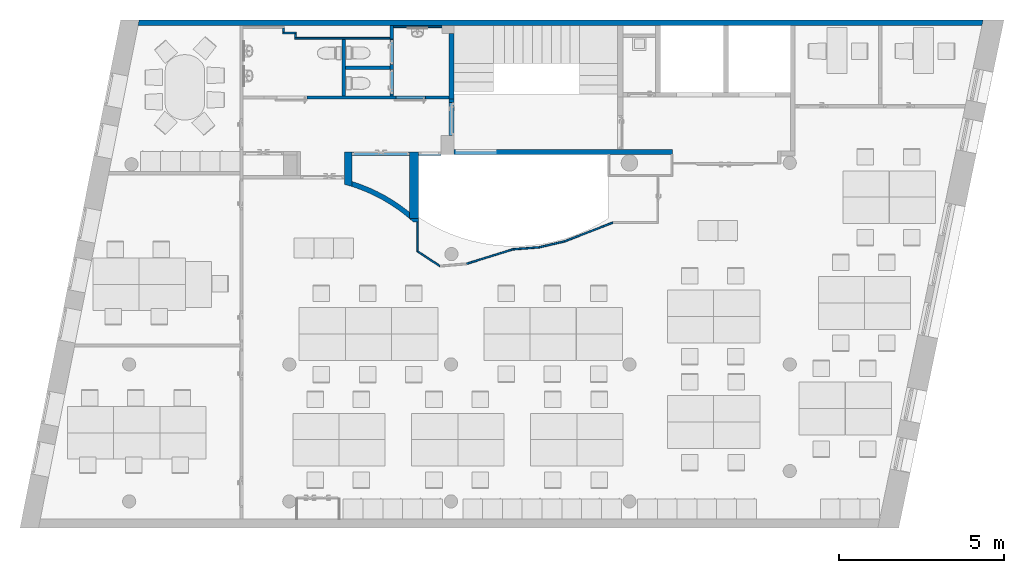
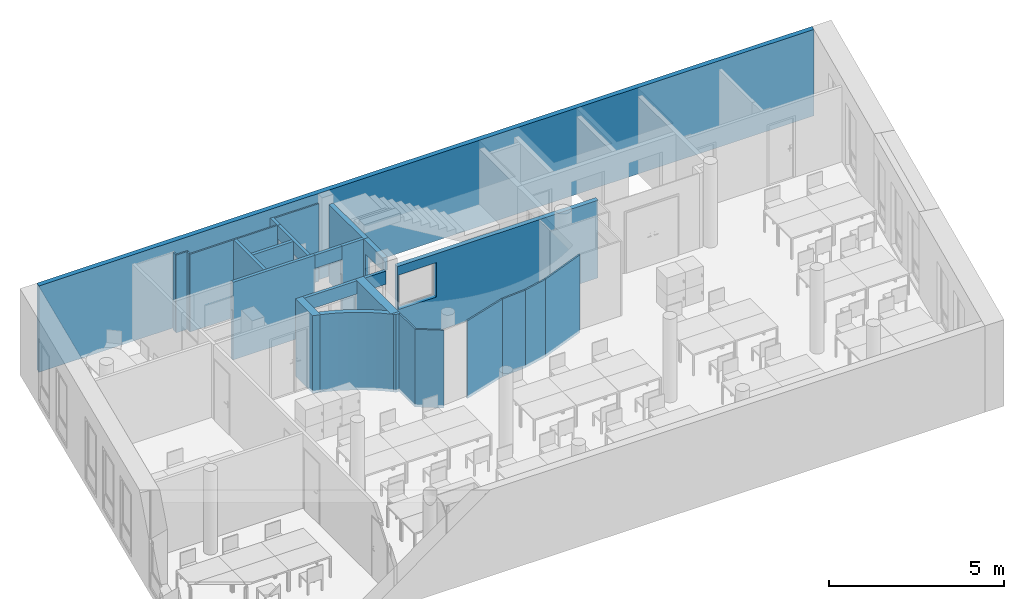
"""IFC4 building model written with IfcOpenShell, lengths in metres."""

from ifc_helpers import new_model, entity, si_unit, converted_unit, derived_unit, frame, frame_2d, origin, origin_with_axes, place, context, subcontext, project, spatial, polyline, rectangle, outline, extrude, material, layer, layer_set, layer_usage, element, save


model = new_model("IFC4")

# Units and contexts
model_context = context("Model", 3, precision=1e-05, world=origin())
body_context = subcontext(model_context, "Body", "Model", "MODEL_VIEW")
ifc_project = project(units=[si_unit("LENGTHUNIT", "METRE"), si_unit("AREAUNIT", "SQUARE_METRE"), si_unit("VOLUMEUNIT", "CUBIC_METRE"), si_unit("MASSUNIT", "GRAM", prefix="KILO"), converted_unit("PLANEANGLEUNIT", "DEGREE", entity("IfcPlaneAngleMeasure", 0.0174532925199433), si_unit("PLANEANGLEUNIT", "RADIAN"), dimensions=[0, 0, 0, 0, 0, 0, 0]), derived_unit("THERMALTRANSMITTANCEUNIT", [(si_unit("POWERUNIT", "WATT"), 1), (si_unit("THERMODYNAMICTEMPERATUREUNIT", "KELVIN"), -1), (si_unit("LENGTHUNIT", "METRE"), -2)]), derived_unit("VOLUMETRICFLOWRATEUNIT", [(si_unit("LENGTHUNIT", "METRE"), 3), (converted_unit("TIMEUNIT", "hour", entity("IfcTimeMeasure", 3600.0), si_unit("TIMEUNIT", "SECOND"), dimensions=[0, 0, 1, 0, 0, 0, 0]), -1), (si_unit("LENGTHUNIT", "METRE"), -1)])], contexts=[model_context])

# Building, storeys
building_placement = place(None, origin())
building = spatial("IfcBuilding", under=ifc_project, at=building_placement, Name="HABITATGE PLURIFAMILIAR", CompositionType="ELEMENT")
storey_1_placement = place(building_placement, frame((0.0, 0.0, 18.29)))
storey_1 = spatial("IfcBuildingStorey", under=building, at=storey_1_placement, Name="PLANTA CINQUENA", CompositionType="ELEMENT", Elevation=18.29)
storey_2_placement = place(storey_1_placement, frame((0.0, 0.0, 15.28)))
storey_2 = spatial("IfcBuildingStorey", under=storey_1, at=storey_2_placement, Name="NOU", CompositionType="PARTIAL")

# Walls
ifc_material_1 = material()
ifc_layer_1 = layer(ifc_material_1, 0.1)
ifc_layer_set_1 = layer_set([ifc_layer_1])
ifc_layer_usage_1 = layer_usage(ifc_layer_set_1, "AXIS2", "POSITIVE", 0.0)
wall_1_placement = place(storey_2_placement, frame((407.439729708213, 27.6494598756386, -15.38), z_axis=(0.0, 0.0, 1.0), x_axis=(0.0, -1.0, 0.0)))
element("IfcWall", 1, at=wall_1_placement, inside=storey_2, material=ifc_layer_usage_1, Name="Evans P5", context=body_context, shape_type="SweptSolid", body=[
    extrude(rectangle(XDim=1.72000000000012, YDim=0.1, at=frame_2d((0.860000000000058, 0.05), x_axis=(1.0, 0.0))), origin_with_axes(), (0.0, 0.0, 1.0), 2.71),
])
ifc_material_2 = material()
ifc_layer_2 = layer(ifc_material_2, 0.1)
ifc_layer_set_2 = layer_set([ifc_layer_2])
ifc_layer_usage_2 = layer_usage(ifc_layer_set_2, "AXIS2", "POSITIVE", 0.0)
wall_2_placement = place(storey_2_placement, frame((407.539729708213, 26.7299487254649, -15.38)))
element("IfcWall", 2, at=wall_2_placement, inside=storey_2, material=ifc_layer_usage_2, Name="Evans P5", context=body_context, shape_type="SweptSolid", body=[
    extrude(rectangle(XDim=1.34725506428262, YDim=0.1, at=frame_2d((0.673627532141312, 0.05), x_axis=(1.0, 0.0))), origin_with_axes(), (0.0, 0.0, 1.0), 2.71),
])

# Wall, opening
ifc_material_3 = material()
ifc_layer_3 = layer(ifc_material_3, 0.15)
ifc_layer_set_3 = layer_set([ifc_layer_3])
ifc_layer_usage_3 = layer_usage(ifc_layer_set_3, "AXIS2", "POSITIVE", 0.0)
wall_3_placement = place(storey_2_placement, frame((417.446984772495, 24.3094598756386, -15.38), z_axis=(0.0, 0.0, 1.0), x_axis=(-1.0, 0.0, 0.0)))
wall_3 = element("IfcWall", 3, at=wall_3_placement, inside=storey_2, material=ifc_layer_usage_3, Name="Evans P5", context=body_context, shape_type="SweptSolid", body=[
    extrude(rectangle(XDim=6.61999999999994, YDim=0.15, at=frame_2d((3.30999999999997, 0.075), x_axis=(1.0, 0.0))), origin_with_axes(), (0.0, 0.0, 1.0), 2.71),
])
opening_1_placement = place(wall_3_placement, frame((6.57999999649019, 0.150000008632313, 1.2), z_axis=(0.0, -1.0, 0.0), x_axis=(0.0, 0.0, 1.0)))
element("IfcOpeningElement", 4, at=opening_1_placement, cuts=wall_3, Name="Vano de Finestra P5", ObjectType="Opening", context=body_context, shape_type="SweptSolid", body=[
    extrude(outline(polyline([(1.2, 1.24), (1.2, 0.0), (0.0, 0.0), (0.0, 1.24), (1.2, 1.24)])), origin_with_axes(), (0.0, 0.0, 1.0), 0.15),
])

# Wall
wall_4_placement = place(storey_2_placement, frame((406.179696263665, 18.3481879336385, -15.38)))
element("IfcWall", 5, at=wall_4_placement, inside=storey_2, Name="Evans P5", context=body_context, shape_type="SweptSolid", body=[
    extrude(outline(polyline([(1.42194672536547, 0.272205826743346), (1.63426062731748, 0.112068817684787), (1.76769935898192, 0.0), (1.76769935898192, 0.195883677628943), (1.72772166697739, 0.229459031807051), (1.50913595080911, 0.394326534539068), (1.28222130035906, 0.54752819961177), (1.04759967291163, 0.688644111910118), (0.805914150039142, 0.817287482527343), (0.557827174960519, 0.933105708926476), (0.304018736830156, 1.03578134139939), (0.0451845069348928, 1.12503295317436), (0.0276993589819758, 1.13005509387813), (0.0276993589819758, 0.9739904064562), (0.0, 0.98194630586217), (0.251407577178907, 0.895255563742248), (0.497933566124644, 0.795525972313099), (0.738902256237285, 0.683030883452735), (0.973653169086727, 0.558078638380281), (1.20154286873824, 0.421011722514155), (1.42194672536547, 0.272205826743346)])), frame((1.52958914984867, 3.86183307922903, 0.0), z_axis=(0.0, 0.0, 1.0), x_axis=(1.0, 0.0, 0.0)), (0.0, 0.0, 1.0), 2.71),
    extrude(outline(polyline([(0.0697326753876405, 0.0), (0.00698481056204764, 0.0585651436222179), (0.0, 0.0585651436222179), (0.0697326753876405, 0.0)])), frame((3.29775911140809, 3.80287269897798, 0.0), z_axis=(0.0, 0.0, 1.0), x_axis=(1.0, 0.0, 0.0)), (0.0, 0.0, 1.0), 2.71),
])

# Wall, openings
wall_5_placement = place(storey_2_placement, frame((410.426984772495, 24.2294598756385, -15.38), z_axis=(0.0, 0.0, 1.0), x_axis=(-1.0, 0.0, 0.0)))
wall_5 = element("IfcWall", 6, at=wall_5_placement, inside=storey_2, Name="Evans P5", context=body_context, shape_type="SweptSolid", body=[
    extrude(rectangle(XDim=1.73999999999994, YDim=0.1, at=frame_2d((0.869999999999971, 0.05), x_axis=(1.0, 0.0))), frame((0.950000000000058, 0.0, 0.0), z_axis=(0.0, 0.0, 1.0), x_axis=(1.0, 0.0, 0.0)), (0.0, 0.0, 1.0), 2.71),
    extrude(rectangle(XDim=0.1, YDim=0.680000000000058, at=frame_2d((0.340000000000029, -0.05), x_axis=(0.0, -1.0))), frame((0.0, 0.1, 0.0), z_axis=(0.0, 0.0, 1.0), x_axis=(1.0, 0.0, 0.0)), (0.0, 0.0, 1.0), 2.71),
])
opening_2_placement = place(wall_5_placement, frame((0.67699491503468, 0.1, 0.1), z_axis=(0.0, -1.0, 0.0), x_axis=(0.0, 0.0, 1.0)))
element("IfcOpeningElement", 7, at=opening_2_placement, cuts=wall_5, Name="Vano porta P5", ObjectType="Opening", context=body_context, shape_type="SweptSolid", body=[
    extrude(outline(polyline([(2.15, 0.67699491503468), (2.15, 0.0), (0.0, 0.0), (0.0, 0.67699491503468), (2.15, 0.67699491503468)])), origin_with_axes(), (0.0, 0.0, 1.0), 0.1),
])
opening_3_placement = place(wall_5_placement, frame((2.68829609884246, 0.1, 0.1), z_axis=(0.0, -1.0, 0.0), x_axis=(0.0, 0.0, 1.0)))
element("IfcOpeningElement", 8, at=opening_3_placement, cuts=wall_5, Name="Vano porta P5", ObjectType="Opening", context=body_context, shape_type="SweptSolid", body=[
    extrude(outline(polyline([(2.15, 1.73829609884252), (2.15, 0.0), (0.0, 0.0), (0.0, 1.73829609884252), (2.15, 1.73829609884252)])), origin_with_axes(), (0.0, 0.0, 1.0), 0.1),
])

# Walls
ifc_material_4 = material()
ifc_layer_4 = layer(ifc_material_4, 0.05)
ifc_layer_set_4 = layer_set([ifc_layer_4])
ifc_layer_usage_4 = layer_usage(ifc_layer_set_4, "AXIS2", "POSITIVE", 0.0)
wall_6_placement = place(storey_2_placement, frame((408.986984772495, 27.9994598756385, -15.38)))
element("IfcWall", 9, at=wall_6_placement, inside=storey_2, material=ifc_layer_usage_4, Name="Evans P5", context=body_context, shape_type="SweptSolid", body=[
    extrude(rectangle(XDim=1.47000000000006, YDim=0.05, at=frame_2d((0.735000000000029, 0.025), x_axis=(1.0, 0.0))), origin_with_axes(), (0.0, 0.0, 1.0), 2.71),
])
ifc_material_5 = material()
ifc_layer_5 = layer(ifc_material_5, 0.05)
ifc_layer_set_5 = layer_set([ifc_layer_5])
ifc_layer_usage_5 = layer_usage(ifc_layer_set_5, "AXIS2", "POSITIVE", 0.0)
wall_7_placement = place(storey_2_placement, frame((405.996984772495, 27.6494598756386, -15.38)))
element("IfcWall", 10, at=wall_7_placement, inside=storey_2, material=ifc_layer_usage_5, Name="Evans P5", context=body_context, shape_type="SweptSolid", body=[
    extrude(rectangle(XDim=2.89048889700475, YDim=0.05, at=frame_2d((1.44524444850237, 0.025), x_axis=(1.0, 0.0))), origin_with_axes(), (0.0, 0.0, 1.0), 2.71),
])
ifc_material_6 = material()
ifc_layer_6 = layer(ifc_material_6, 0.05)
ifc_layer_set_6 = layer_set([ifc_layer_6])
ifc_layer_usage_6 = layer_usage(ifc_layer_set_6, "AXIS2", "POSITIVE", 0.0)
wall_8_placement = place(storey_2_placement, frame((405.996984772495, 27.8094598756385, -15.38), z_axis=(0.0, 0.0, 1.0), x_axis=(0.0, -1.0, 0.0)))
element("IfcWall", 11, at=wall_8_placement, inside=storey_2, material=ifc_layer_usage_6, Name="Evans P5", context=body_context, shape_type="SweptSolid", body=[
    extrude(rectangle(XDim=0.109999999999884, YDim=0.05, at=frame_2d((0.0549999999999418, 0.025), x_axis=(1.0, 0.0))), origin_with_axes(), (0.0, 0.0, 1.0), 2.71),
])
ifc_material_7 = material()
ifc_layer_7 = layer(ifc_material_7, 0.05)
ifc_layer_set_7 = layer_set([ifc_layer_7])
ifc_layer_usage_7 = layer_usage(ifc_layer_set_7, "AXIS2", "POSITIVE", 0.0)
wall_9_placement = place(storey_2_placement, frame((405.636984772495, 27.8094598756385, -15.38)))
element("IfcWall", 12, at=wall_9_placement, inside=storey_2, material=ifc_layer_usage_7, Name="Evans P5", context=body_context, shape_type="SweptSolid", body=[
    extrude(rectangle(XDim=0.41, YDim=0.05, at=frame_2d((0.205, 0.025), x_axis=(1.0, 0.0))), origin_with_axes(), (0.0, 0.0, 1.0), 2.71),
])
ifc_material_8 = material()
ifc_layer_8 = layer(ifc_material_8, 0.05)
ifc_layer_set_8 = layer_set([ifc_layer_8])
ifc_layer_usage_8 = layer_usage(ifc_layer_set_8, "AXIS2", "POSITIVE", 0.0)
wall_10_placement = place(storey_2_placement, frame((405.636984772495, 27.9794598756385, -15.38), z_axis=(0.0, 0.0, 1.0), x_axis=(0.0, -1.0, 0.0)))
element("IfcWall", 13, at=wall_10_placement, inside=storey_2, material=ifc_layer_usage_8, Name="Evans P5", context=body_context, shape_type="SweptSolid", body=[
    extrude(rectangle(XDim=0.12, YDim=0.05, at=frame_2d((0.06, 0.025), x_axis=(1.0, 0.0))), origin_with_axes(), (0.0, 0.0, 1.0), 2.71),
])
ifc_material_9 = material()
ifc_layer_9 = layer(ifc_material_9, 0.0500000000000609)
ifc_layer_set_9 = layer_set([ifc_layer_9])
ifc_layer_usage_9 = layer_usage(ifc_layer_set_9, "AXIS2", "POSITIVE", 0.0)
wall_11_placement = place(storey_2_placement, frame((414.173422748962, 21.4994598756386, -15.38), z_axis=(0.0, 0.0, 1.0), x_axis=(0.932655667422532, 0.360767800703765, 0.0)))
element("IfcWall", 14, at=wall_11_placement, inside=storey_2, material=ifc_layer_usage_9, Name="Mampara P5", context=body_context, shape_type="SweptSolid", body=[
    extrude(outline(polyline([(0.0138649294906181, -0.00536320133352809), (1.59382854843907, -0.00536320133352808), (1.60316202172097, 0.0446367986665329), (0.0172663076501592, 0.0446367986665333), (0.0173503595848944, 0.0446253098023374), (0.0138649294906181, -0.00536320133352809)])), frame((-0.0138649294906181, 0.00536320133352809, 0.0), z_axis=(0.0, 0.0, 1.0), x_axis=(1.0, 0.0, 0.0)), (0.0, 0.0, 1.0), 2.71),
])
ifc_material_10 = material()
ifc_layer_10 = layer(ifc_material_10, 0.0499999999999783)
ifc_layer_set_10 = layer_set([ifc_layer_10])
ifc_layer_usage_10 = layer_usage(ifc_layer_set_10, "AXIS2", "POSITIVE", 0.0)
wall_12_placement = place(storey_2_placement, frame((413.404620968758, 21.3195578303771, -15.38), z_axis=(0.0, 0.0, 1.0), x_axis=(0.973696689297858, 0.227848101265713, 0.0)))
element("IfcWall", 15, at=wall_12_placement, inside=storey_2, material=ifc_layer_usage_10, Name="Mampara P5", context=body_context, shape_type="SweptSolid", body=[
    extrude(outline(polyline([(0.00784668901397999, -0.00183615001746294), (0.797416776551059, -0.00183615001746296), (0.793930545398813, 0.0481638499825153), (0.0112704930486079, 0.0481638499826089), (0.0154985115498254, 0.0475082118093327), (0.00784668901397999, -0.00183615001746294)])), frame((-0.00784668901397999, 0.00183615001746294, 0.0), z_axis=(0.0, 0.0, 1.0), x_axis=(1.0, 0.0, 0.0)), (0.0, 0.0, 1.0), 2.71),
])
ifc_material_11 = material()
ifc_layer_11 = layer(ifc_material_11, 0.0499999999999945)
ifc_layer_set_11 = layer_set([ifc_layer_11])
ifc_layer_usage_11 = layer_usage(ifc_layer_set_11, "AXIS2", "POSITIVE", 0.0)
wall_13_placement = place(storey_2_placement, frame((412.617309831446, 21.2595227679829, -15.38), z_axis=(0.0, 0.0, 1.0), x_axis=(0.997111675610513, 0.0759493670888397, 0.0)))
element("IfcWall", 16, at=wall_13_placement, inside=storey_2, material=ifc_layer_usage_11, Name="Mampara P5", context=body_context, shape_type="SweptSolid", body=[
    extrude(outline(polyline([(0.00742789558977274, -0.000565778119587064), (0.79659981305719, -0.000565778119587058), (0.79702464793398, -0.000499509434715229), (0.79702464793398, 0.0494342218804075), (0.0037653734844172, 0.0494342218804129), (0.0091642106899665, 0.0016351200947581), (0.00988918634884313, 0.00180237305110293), (0.00921823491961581, 0.00115681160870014), (0.00934164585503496, 6.41815404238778e-05), (0.00768767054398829, -0.000315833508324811), (0.00742789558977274, -0.000565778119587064)])), frame((-0.00742789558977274, 0.000565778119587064, 0.0), z_axis=(0.0, 0.0, 1.0), x_axis=(1.0, 0.0, 0.0)), (0.0, 0.0, 1.0), 2.71),
])
ifc_material_12 = material()
ifc_layer_12 = layer(ifc_material_12, 0.0499999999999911)
ifc_layer_set_12 = layer_set([ifc_layer_12])
ifc_layer_usage_12 = layer_usage(ifc_layer_set_12, "AXIS2", "POSITIVE", 0.0)
wall_14_placement = place(storey_2_placement, frame((411.203408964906, 20.8194604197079, -15.38), z_axis=(0.0, 0.0, 1.0), x_axis=(0.954784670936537, 0.297298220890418, 0.0)))
element("IfcWall", 17, at=wall_14_placement, inside=storey_2, material=ifc_layer_usage_12, Name="Mampara P5", context=body_context, shape_type="SweptSolid", body=[
    extrude(outline(polyline([(0.0092418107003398, -0.00287768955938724), (1.49204865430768, -0.00287768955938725), (1.49774142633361, 0.0471223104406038), (0.0146728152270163, 0.0471223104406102), (0.0210543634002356, 0.0457194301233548), (0.0103717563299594, -0.0028745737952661), (0.0092418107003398, -0.00287768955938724)])), frame((-0.0092418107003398, 0.00287768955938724, 0.0), z_axis=(0.0, 0.0, 1.0), x_axis=(1.0, 0.0, 0.0)), (0.0, 0.0, 1.0), 2.71),
])
ifc_material_13 = material()
ifc_layer_13 = layer(ifc_material_13, 0.0499999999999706)
ifc_layer_set_13 = layer_set([ifc_layer_13])
ifc_layer_usage_13 = layer_usage(ifc_layer_set_13, "AXIS2", "POSITIVE", 0.0)
wall_15_placement = place(storey_2_placement, frame((409.696984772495, 21.2096257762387, -15.38), z_axis=(0.0, 0.0, 1.0), x_axis=(0.831739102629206, -0.555166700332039, 0.0)))
element("IfcWall", 18, at=wall_15_placement, inside=storey_2, material=ifc_layer_usage_13, Name="Mampara P5", context=body_context, shape_type="SweptSolid", body=[
    extrude(outline(polyline([(-0.25546878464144, 0.382737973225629), (0.573410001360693, 0.382737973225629), (0.555890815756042, 0.4327379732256), (-0.228727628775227, 0.432737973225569), (-0.25546878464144, 0.382737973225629)])), frame((0.25546878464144, -0.382737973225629, 0.0), z_axis=(0.0, 0.0, 1.0), x_axis=(1.0, 0.0, 0.0)), (0.0, 0.0, 1.0), 2.71),
])
ifc_material_14 = material()
ifc_layer_14 = layer(ifc_material_14, 0.05)
ifc_layer_set_14 = layer_set([ifc_layer_14])
ifc_layer_usage_14 = layer_usage(ifc_layer_set_14, "AXIS2", "POSITIVE", 0.0)
wall_16_placement = place(storey_2_placement, frame((409.746984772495, 21.2363669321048, -15.38), z_axis=(0.0, 0.0, 1.0), x_axis=(0.0, 1.0, 0.0)))
element("IfcWall", 19, at=wall_16_placement, inside=storey_2, material=ifc_layer_usage_14, Name="Mampara P5", context=body_context, shape_type="SweptSolid", body=[
    extrude(outline(polyline([(0.0267411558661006, -0.05), (0.900000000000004, -0.05), (0.900000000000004, 0.0), (0.0, 0.0), (0.0267411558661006, -0.05)])), frame((-0.0267411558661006, 0.05, 0.0), z_axis=(0.0, 0.0, 1.0), x_axis=(1.0, 0.0, 0.0)), (0.0, 0.0, 1.0), 2.71),
])
ifc_material_15 = material()
ifc_layer_15 = layer(ifc_material_15, 0.1)
ifc_layer_set_15 = layer_set([ifc_layer_15])
ifc_layer_usage_15 = layer_usage(ifc_layer_set_15, "AXIS2", "POSITIVE", 0.0)
wall_17_placement = place(storey_2_placement, frame((409.591582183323, 22.1096257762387, -15.38)))
element("IfcWall", 20, at=wall_17_placement, inside=storey_2, material=ifc_layer_usage_15, Name="Mampara P5", context=body_context, shape_type="SweptSolid", body=[
    extrude(outline(polyline([(0.107141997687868, 0.0), (0.262544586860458, 0.0), (0.262544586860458, 0.1), (0.0, 0.1), (0.107141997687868, 0.0)])), frame((-0.107141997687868, 0.0, 0.0), z_axis=(0.0, 0.0, 1.0), x_axis=(1.0, 0.0, 0.0)), (0.0, 0.0, 1.0), 2.71),
])
ifc_material_16 = material()
ifc_layer_16 = layer(ifc_material_16, 0.15)
ifc_layer_set_16 = layer_set([ifc_layer_16])
ifc_layer_usage_16 = layer_usage(ifc_layer_set_16, "AXIS2", "POSITIVE", 0.0)
wall_18_placement = place(storey_2_placement, frame((410.826984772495, 25.8294598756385, -15.38), z_axis=(0.0, 0.0, 1.0), x_axis=(0.0, 1.0, 0.0)))
element("IfcWall", 21, at=wall_18_placement, inside=storey_2, material=ifc_layer_usage_16, Name="Evans P5", context=body_context, shape_type="SweptSolid", body=[
    extrude(rectangle(XDim=1.99, YDim=0.15, at=frame_2d((0.995, 0.075), x_axis=(1.0, 0.0))), origin_with_axes(), (0.0, 0.0, 1.0), 2.71),
])
ifc_material_17 = material()
ifc_layer_17 = layer(ifc_material_17, 0.1)
ifc_layer_set_17 = layer_set([ifc_layer_17])
ifc_layer_usage_17 = layer_usage(ifc_layer_set_17, "AXIS2", "POSITIVE", 0.0)
wall_19_placement = place(storey_2_placement, frame((408.986984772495, 27.6494598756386, -15.38), z_axis=(0.0, 0.0, 1.0), x_axis=(0.0, 1.0, 0.0)))
element("IfcWall", 22, at=wall_19_placement, inside=storey_2, material=ifc_layer_usage_17, Name="Evans P5", context=body_context, shape_type="SweptSolid", body=[
    extrude(outline(polyline([(0.0, -0.1), (0.418788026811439, -0.1), (0.418788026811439, 0.0), (0.05, 0.0), (0.05, -0.000488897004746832), (0.0, -0.000488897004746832), (0.0, -0.1)])), frame((0.0, 0.1, 0.0), z_axis=(0.0, 0.0, 1.0), x_axis=(1.0, 0.0, 0.0)), (0.0, 0.0, 1.0), 2.71),
])
ifc_material_18 = material()
ifc_layer_18 = layer(ifc_material_18, 0.1)
ifc_layer_set_18 = layer_set([ifc_layer_18])
ifc_layer_usage_18 = layer_usage(ifc_layer_set_18, "AXIS2", "POSITIVE", 0.0)
wall_20_placement = place(storey_2_placement, frame((406.365884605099, 25.8294598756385, -15.38)))
element("IfcWall", 23, at=wall_20_placement, inside=storey_2, material=ifc_layer_usage_18, Name="Evans P5", context=body_context, shape_type="SweptSolid", body=[
    extrude(rectangle(XDim=2.69947083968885, YDim=0.1, at=frame_2d((1.34973541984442, 0.05), x_axis=(1.0, 0.0))), origin_with_axes(), (0.0, 0.0, 1.0), 2.71),
])
ifc_material_19 = material()
ifc_layer_19 = layer(ifc_material_19, 0.27)
ifc_layer_set_19 = layer_set([ifc_layer_19])
ifc_layer_usage_19 = layer_usage(ifc_layer_set_19, "AXIS2", "POSITIVE", 0.0)
wall_21_placement = place(storey_2_placement, frame((409.746984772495, 22.2096257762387, -15.38), z_axis=(0.0, 0.0, 1.0), x_axis=(0.0, 1.0, 0.0)))
element("IfcWall", 24, at=wall_21_placement, inside=storey_2, material=ifc_layer_usage_19, Name="Evans P5", context=body_context, shape_type="SweptSolid", body=[
    extrude(rectangle(XDim=2.01983409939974, YDim=0.27, at=frame_2d((1.00991704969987, 0.135), x_axis=(1.0, 0.0))), origin_with_axes(), (0.0, 0.0, 1.0), 2.71),
])
ifc_material_20 = material()
ifc_layer_20 = layer(ifc_material_20, 0.23)
ifc_layer_set_20 = layer_set([ifc_layer_20])
ifc_layer_usage_20 = layer_usage(ifc_layer_set_20, "AXIS2", "POSITIVE", 0.0)
wall_22_placement = place(storey_2_placement, frame((407.736984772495, 23.1840114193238, -15.38), z_axis=(0.0, 0.0, 1.0), x_axis=(0.0, 1.0, 0.0)))
element("IfcWall", 25, at=wall_22_placement, inside=storey_2, material=ifc_layer_usage_20, Name="Evans P5", context=body_context, shape_type="SweptSolid", body=[
    extrude(outline(polyline([(0.0, -0.23), (1.04544845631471, -0.23), (1.04544845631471, 0.0), (0.0660613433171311, 0.0), (0.0, -0.23)])), frame((0.0, 0.23, 0.0), z_axis=(0.0, 0.0, 1.0), x_axis=(1.0, 0.0, 0.0)), (0.0, 0.0, 1.0), 2.71),
])
ifc_material_21 = material()
ifc_layer_21 = layer(ifc_material_21, 0.16)
ifc_layer_set_21 = layer_set([ifc_layer_21])
ifc_layer_usage_21 = layer_usage(ifc_layer_set_21, "AXIS2", "POSITIVE", 0.0)
wall_23_placement = place(storey_2_placement, frame((426.846414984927, 28.22824790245, -15.38), z_axis=(0.0, 0.0, 1.0), x_axis=(-1.0, 0.0, 0.0)))
element("IfcWall", 26, at=wall_23_placement, inside=storey_2, material=ifc_layer_usage_21, Name="Evans P5", context=body_context, shape_type="SweptSolid", body=[
    extrude(outline(polyline([(-25.5876889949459, -0.16), (-0.0317002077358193, -0.16), (0.0, 0.0), (-25.5545403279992, 0.0), (-25.5876889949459, -0.16)])), frame((25.5876889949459, 0.16, 0.0), z_axis=(0.0, 0.0, 1.0), x_axis=(1.0, 0.0, 0.0)), (0.0, 0.0, 1.0), 3.01),
])
ifc_material_22 = material()
ifc_layer_22 = layer(ifc_material_22, 0.1)
ifc_layer_set_22 = layer_set([ifc_layer_22])
ifc_layer_usage_22 = layer_usage(ifc_layer_set_22, "AXIS2", "POSITIVE", 0.0)
wall_24_placement = place(storey_2_placement, frame((409.965355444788, 25.8294598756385, -15.38)))
element("IfcWall", 27, at=wall_24_placement, inside=storey_2, material=ifc_layer_usage_22, Name="Evans P5", context=body_context, shape_type="SweptSolid", body=[
    extrude(rectangle(XDim=0.711629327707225, YDim=0.1, at=frame_2d((0.355814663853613, 0.05), x_axis=(1.0, 0.0))), origin_with_axes(), (0.0, 0.0, 1.0), 2.71),
])

# Wall, openings
ifc_material_23 = material()
ifc_layer_23 = layer(ifc_material_23, 0.1)
ifc_layer_set_23 = layer_set([ifc_layer_23])
ifc_layer_usage_23 = layer_usage(ifc_layer_set_23, "AXIS2", "POSITIVE", 0.0)
wall_25_placement = place(storey_2_placement, frame((408.986984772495, 25.9294598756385, -15.38), z_axis=(0.0, 0.0, 1.0), x_axis=(0.0, 1.0, 0.0)))
wall_25 = element("IfcWall", 28, at=wall_25_placement, inside=storey_2, material=ifc_layer_usage_23, Name="Evans P5", context=body_context, shape_type="SweptSolid", body=[
    extrude(rectangle(XDim=1.72000000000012, YDim=0.1, at=frame_2d((0.860000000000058, 0.05), x_axis=(1.0, 0.0))), origin_with_axes(), (0.0, 0.0, 1.0), 2.71),
])
opening_4_placement = place(wall_25_placement, frame((0.800488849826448, 0.1, 0.1), z_axis=(0.0, -1.0, 0.0), x_axis=(0.0, 0.0, 1.0)))
element("IfcOpeningElement", 29, at=opening_4_placement, cuts=wall_25, Name="Vano porta P5", ObjectType="Opening", context=body_context, shape_type="SweptSolid", body=[
    extrude(outline(polyline([(2.15, 0.741515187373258), (2.15, 0.0), (0.0, 0.0), (0.0, 0.741515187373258), (2.15, 0.741515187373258)])), origin_with_axes(), (0.0, 0.0, 1.0), 0.1),
])
opening_5_placement = place(wall_25_placement, frame((1.68897366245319, 0.1, 0.1), z_axis=(0.0, -1.0, 0.0), x_axis=(0.0, 0.0, 1.0)))
element("IfcOpeningElement", 30, at=opening_5_placement, cuts=wall_25, Name="Vano porta P5", ObjectType="Opening", context=body_context, shape_type="SweptSolid", body=[
    extrude(outline(polyline([(2.15, 0.738973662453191), (2.15, 0.0), (0.0, 0.0), (0.0, 0.738973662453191), (2.15, 0.738973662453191)])), origin_with_axes(), (0.0, 0.0, 1.0), 0.1),
])

# Wall, opening
ifc_material_24 = material()
ifc_layer_24 = layer(ifc_material_24, 0.15)
ifc_layer_set_24 = layer_set([ifc_layer_24])
ifc_layer_usage_24 = layer_usage(ifc_layer_set_24, "AXIS2", "POSITIVE", 0.0)
wall_26_placement = place(storey_2_placement, frame((410.826984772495, 24.7294598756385, -15.38), z_axis=(0.0, 0.0, 1.0), x_axis=(0.0, 1.0, 0.0)))
wall_26 = element("IfcWall", 31, at=wall_26_placement, inside=storey_2, material=ifc_layer_usage_24, Name="Evans P5", context=body_context, shape_type="SweptSolid", body=[
    extrude(rectangle(XDim=1.1, YDim=0.15, at=frame_2d((0.55, 0.075), x_axis=(1.0, 0.0))), origin_with_axes(), (0.0, 0.0, 1.0), 2.71),
])
opening_6_placement = place(wall_26_placement, frame((0.0, 0.0, 0.1), z_axis=(0.0, 1.0, 0.0), x_axis=(0.0, 0.0, 1.0)))
element("IfcOpeningElement", 32, at=opening_6_placement, cuts=wall_26, Name="Vano porta P5", ObjectType="Opening", context=body_context, shape_type="SweptSolid", body=[
    extrude(outline(polyline([(2.15, 1.0), (2.15, 0.0), (0.0, 0.0), (0.0, 1.0), (2.15, 1.0)])), origin_with_axes(), (0.0, 0.0, 1.0), 0.15),
])

ifc_material_25 = material()
ifc_layer_25 = layer(ifc_material_25, 0.1)
ifc_layer_set_25 = layer_set([ifc_layer_25])
ifc_layer_usage_25 = layer_usage(ifc_layer_set_25, "AXIS2", "POSITIVE", 0.0)
wall_27_placement = place(storey_2_placement, frame((409.065355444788, 25.8294598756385, -15.38)))
wall_27 = element("IfcWall", 33, at=wall_27_placement, inside=storey_2, material=ifc_layer_usage_25, Name="Evans P5", context=body_context, shape_type="SweptSolid", body=[
    extrude(rectangle(XDim=0.9, YDim=0.1, at=frame_2d((0.45, 0.05), x_axis=(1.0, 0.0))), origin_with_axes(), (0.0, 0.0, 1.0), 2.71),
])
opening_7_placement = place(wall_27_placement, frame((0.9, 0.1, 0.1), z_axis=(0.0, -1.0, 0.0), x_axis=(0.0, 0.0, 1.0)))
element("IfcOpeningElement", 34, at=opening_7_placement, cuts=wall_27, Name="Vano porta P5", ObjectType="Opening", context=body_context, shape_type="SweptSolid", body=[
    extrude(outline(polyline([(2.15, 0.9), (2.15, 0.0), (0.0, 0.0), (0.0, 0.9), (2.15, 0.9)])), origin_with_axes(), (0.0, 0.0, 1.0), 0.1),
])

save(model, "model.ifc")
